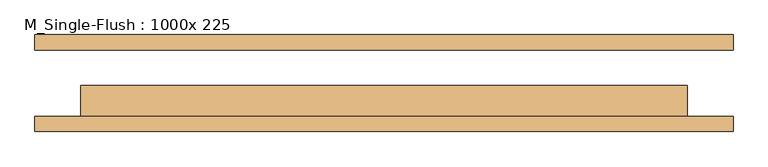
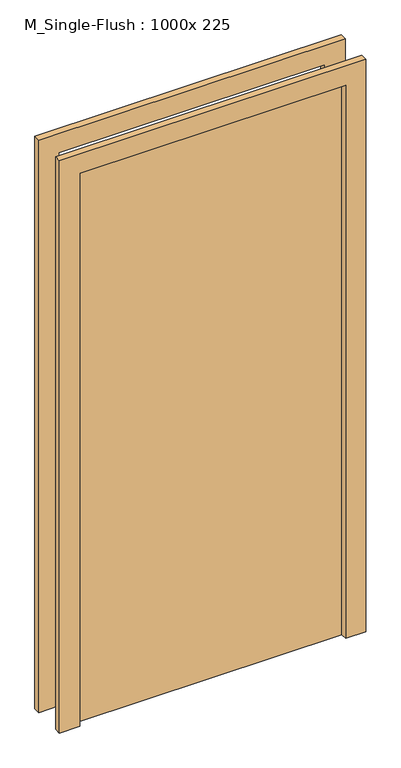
"""IFC4 building model written with IfcOpenShell, lengths in millimetres: door geometry, M_Single-Flush : 1000x 225."""

from ifc_helpers import new_model, si_unit, frame, origin, origin_with_axes, place, context, project, spatial, polyline, outline, extrude, source, transform, mapped, element, save


def m_single_flush_1000x_225_34d59a64(model_context):
    return source(origin(), model_context, "Body", "SweptSolid", [
        extrude(outline(polyline([(2276.0, -576.0), (0.0, -576.0), (0.0, -500.0), (2200.0, -500.0), (2200.0, 500.0), (0.0, 500.0), (0.0, 576.0), (2276.0, 576.0), (2276.0, -576.0)])), frame((0.0, -80.0, 0.0), z_axis=(0.0, 1.0, 0.0), x_axis=(0.0, 0.0, 1.0)), (0.0, 0.0, 1.0), 25.0),
        extrude(outline(polyline([(2276.0, 576.0), (2276.0, -576.0), (0.0, -576.0), (0.0, -500.0), (2200.0, -500.0), (2200.0, 500.0), (0.0, 500.0), (0.0, 576.0), (2276.0, 576.0)])), frame((0.0, 55.0, 0.0), z_axis=(0.0, 1.0, 0.0), x_axis=(0.0, 0.0, 1.0)), (0.0, 0.0, 1.0), 25.0),
        extrude(outline(polyline([(500.0, -4.0), (500.0, -55.0), (-500.0, -55.0), (-500.0, -4.0), (500.0, -4.0)])), origin_with_axes(), (0.0, 0.0, 1.0), 2200.0),
    ])


if __name__ == "__main__":
    model = new_model("IFC4")
    model_context = context("Model", 3, world=origin())
    ifc_project = project(units=[si_unit("LENGTHUNIT", "METRE", prefix="MILLI")], contexts=[model_context])
    site = spatial("IfcSite", under=ifc_project)
    building = spatial("IfcBuilding", under=site)
    placement = place(None, origin())
    m_single_flush_1000x_225_shape = m_single_flush_1000x_225_34d59a64(model_context)
    element("IfcDoor", 1, ObjectType="M_Single-Flush : 1000x 225", at=placement, inside=building, context=model_context, shape_type="MappedRepresentation", body=[
        mapped(m_single_flush_1000x_225_shape, transform((0.0, 0.0, 0.0), x_axis=(1.0, 0.0, 0.0), y_axis=(0.0, 1.0, 0.0), z_axis=(0.0, 0.0, 1.0))),
    ])
    save(model, "model.ifc")
